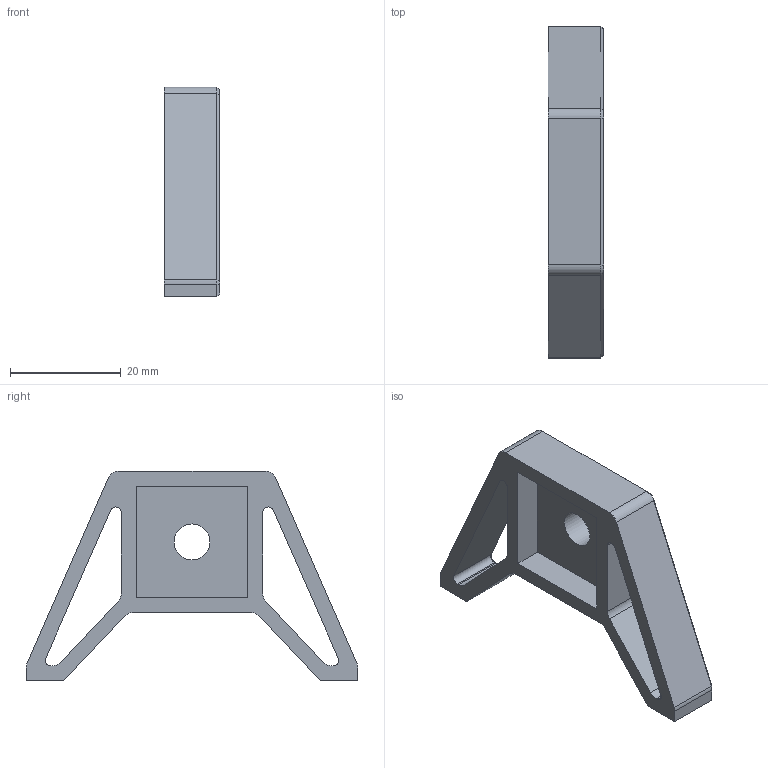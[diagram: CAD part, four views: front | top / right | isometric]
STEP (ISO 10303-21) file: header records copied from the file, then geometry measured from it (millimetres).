
FILE_DESCRIPTION(('FreeCAD Model'),'2;1');
FILE_NAME('Open CASCADE Shape Model','2023-11-11T09:58:46',(''),(''), 'Open CASCADE STEP processor 7.6','FreeCAD','Unknown');
FILE_SCHEMA(('AUTOMOTIVE_DESIGN { 1 0 10303 214 1 1 1 1 }'));
Length unit declared in the file: millimetre
Products named in the file (1): pair_of_legs
Bounding box: 10 x 60 x 37.9 mm (x, y, z)
Volume: 7643.1 mm3; surface area: 5476.5 mm2
Topology: 1 solids, 1 shells, 73 faces, 177 edges, 107 vertices
Faces by surface type: plane 43, cylinder 15, cone 15
Full cylindrical faces by diameter (mm): 6.5 x1
Entity records: 4463 total; most frequent: CARTESIAN_POINT 784, DIRECTION 712, LINE 456, VECTOR 456, ORIENTED_EDGE 354, PCURVE 354, DEFINITIONAL_REPRESENTATION 354, EDGE_CURVE 177
